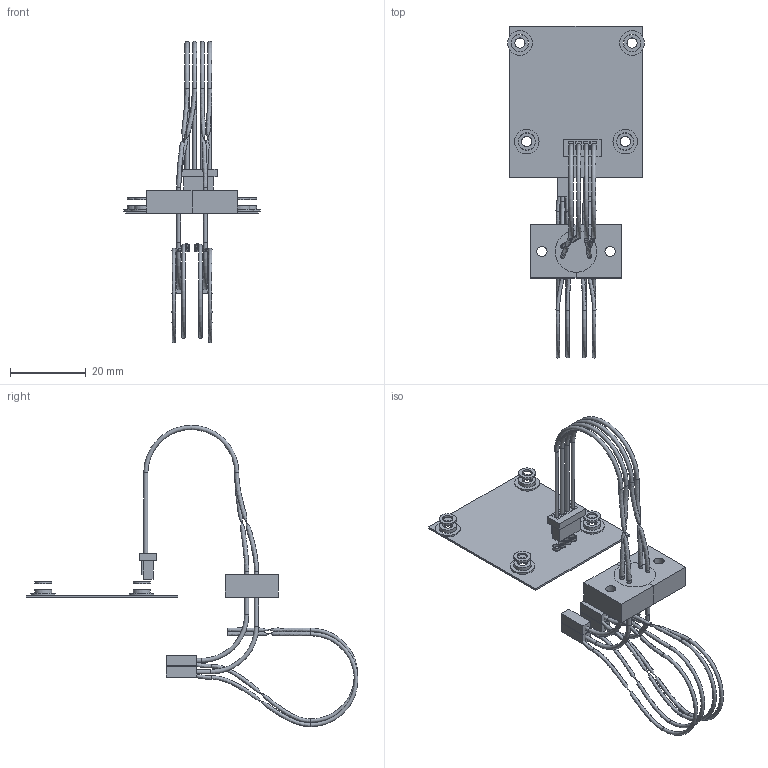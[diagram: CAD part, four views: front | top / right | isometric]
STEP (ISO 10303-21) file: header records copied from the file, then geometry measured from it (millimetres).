
FILE_DESCRIPTION(('Open CASCADE Model'),'2;1');
FILE_NAME('Open CASCADE Shape Model','2026-10-10T10:25:08',('Author'),( 'Open CASCADE'),'Open CASCADE STEP processor 7.8','Open CASCADE 7.8' ,'Unknown');
FILE_SCHEMA(('AUTOMOTIVE_DESIGN { 1 0 10303 214 1 1 1 1 }'));
Length unit declared in the file: millimetre
Products named in the file (82): Open CASCADE STEP translator 7.8 5; Open CASCADE STEP translator 7.8 5.1; Open CASCADE STEP translator 7.8 5.1.1; Open CASCADE STEP translator 7.8 5.1.2; Open CASCADE STEP translator 7.8 5.2; Open CASCADE STEP translator 7.8 5.3; Open CASCADE STEP translator 7.8 5.3.1; Open CASCADE STEP translator 7.8 5.3.2; Open CASCADE STEP translator 7.8 5.4; Open CASCADE STEP translator 7.8 5.5; Open CASCADE STEP translator 7.8 5.5.1; Open CASCADE STEP translator 7.8 5.5.2; Open CASCADE STEP translator 7.8 5.6; Open CASCADE STEP translator 7.8 5.7; Open CASCADE STEP translator 7.8 5.7.1; Open CASCADE STEP translator 7.8 5.7.2; Open CASCADE STEP translator 7.8 5.8; Open CASCADE STEP translator 7.8 5.9; Open CASCADE STEP translator 7.8 5.10; Open CASCADE STEP translator 7.8 5.11; Open CASCADE STEP translator 7.8 5.12; Open CASCADE STEP translator 7.8 5.13; Open CASCADE STEP translator 7.8 5.14; Open CASCADE STEP translator 7.8 5.15; Open CASCADE STEP translator 7.8 5.16; Open CASCADE STEP translator 7.8 5.17; Open CASCADE STEP translator 7.8 5.17.1; Open CASCADE STEP translator 7.8 5.17.2; Open CASCADE STEP translator 7.8 5.17.3; Open CASCADE STEP translator 7.8 5.17.4; Open CASCADE STEP translator 7.8 5.17.5; Open CASCADE STEP translator 7.8 5.17.6; Open CASCADE STEP translator 7.8 5.18; Open CASCADE STEP translator 7.8 5.19; Open CASCADE STEP translator 7.8 5.20; Open CASCADE STEP translator 7.8 5.21; Open CASCADE STEP translator 7.8 5.21.1; Open CASCADE STEP translator 7.8 5.21.2; Open CASCADE STEP translator 7.8 5.21.3; Open CASCADE STEP translator 7.8 5.21.4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
Assembly tree (81 placements, depth 3):
  Open CASCADE STEP translator 7.8 5
    Open CASCADE STEP translator 7.8 5.1
      Open CASCADE STEP translator 7.8 5.1.1
      Open CASCADE STEP translator 7.8 5.1.2
    Open CASCADE STEP translator 7.8 5.2
    Open CASCADE STEP translator 7.8 5.3
      Open CASCADE STEP translator 7.8 5.3.1
      Open CASCADE STEP translator 7.8 5.3.2
    Open CASCADE STEP translator 7.8 5.4
    Open CASCADE STEP translator 7.8 5.5
      Open CASCADE STEP translator 7.8 5.5.1
      Open CASCADE STEP translator 7.8 5.5.2
    Open CASCADE STEP translator 7.8 5.6
    Open CASCADE STEP translator 7.8 5.7
      Open CASCADE STEP translator 7.8 5.7.1
      Open CASCADE STEP translator 7.8 5.7.2
    Open CASCADE STEP translator 7.8 5.8
    Open CASCADE STEP translator 7.8 5.9
    Open CASCADE STEP translator 7.8 5.10
    Open CASCADE STEP translator 7.8 5.11
    Open CASCADE STEP translator 7.8 5.12
    Open CASCADE STEP translator 7.8 5.13
    Open CASCADE STEP translator 7.8 5.14
    Open CASCADE STEP translator 7.8 5.15
    Open CASCADE STEP translator 7.8 5.16
    Open CASCADE STEP translator 7.8 5.17
      Open CASCADE STEP translator 7.8 5.17.1
      Open CASCADE STEP translator 7.8 5.17.2
      Open CASCADE STEP translator 7.8 5.17.3
      Open CASCADE STEP translator 7.8 5.17.4
      Open CASCADE STEP translator 7.8 5.17.5
      Open CASCADE STEP translator 7.8 5.17.6
    Open CASCADE STEP translator 7.8 5.18
    Open CASCADE STEP translator 7.8 5.19
    Open CASCADE STEP translator 7.8 5.20
    Open CASCADE STEP translator 7.8 5.21
      Open CASCADE STEP translator 7.8 5.21.1
      Open CASCADE STEP translator 7.8 5.21.2
      Open CASCADE STEP translator 7.8 5.21.3
      Open CASCADE STEP translator 7.8 5.21.4
      Open CASCADE STEP translator 7.8 5.21.5
      Open CASCADE STEP translator 7.8 5.21.6
    Open CASCADE STEP translator 7.8 5.22
    Open CASCADE STEP translator 7.8 5.23
    Open CASCADE STEP translator 7.8 5.24
    Open CASCADE STEP translator 7.8 5.25
      Open CASCADE STEP translator 7.8 5.25.1
      Open CASCADE STEP translator 7.8 5.25.2
      Open CASCADE STEP translator 7.8 5.25.3
      Open CASCADE STEP translator 7.8 5.25.4
      Open CASCADE STEP translator 7.8 5.25.5
      Open CASCADE STEP translator 7.8 5.25.6
    Open CASCADE STEP translator 7.8 5.26
    Open CASCADE STEP translator 7.8 5.27
    Open CASCADE STEP translator 7.8 5.28
    Open CASCADE STEP translator 7.8 5.29
      Open CASCADE STEP translator 7.8 5.29.1
      Open CASCADE STEP translator 7.8 5.29.2
      Open CASCADE STEP translator 7.8 5.29.3
      Open CASCADE STEP translator 7.8 5.29.4
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Bounding box: 36.1 x 87.57 x 79.52 mm (x, y, z)
Volume: 3939.7 mm3; surface area: 9026 mm2
Topology: 69 solids, 69 shells, 323 faces, 516 edges, 344 vertices
Faces by surface type: plane 237, cylinder 58, bspline 16, torus 12
Full cylindrical faces by diameter (mm): 0.95 x4, 1.1 x12, 1.8 x4, 2 x4, 2.7 x10, 4.5 x8, 4.6 x4, 4.8 x4, 6.5 x4, 11 x1
Entity records: 17328 total; most frequent: CARTESIAN_POINT 4933, DIRECTION 2200, LINE 1056, VECTOR 1056, ORIENTED_EDGE 1032, PCURVE 1032, DEFINITIONAL_REPRESENTATION 1032, AXIS2_PLACEMENT_3D 541
